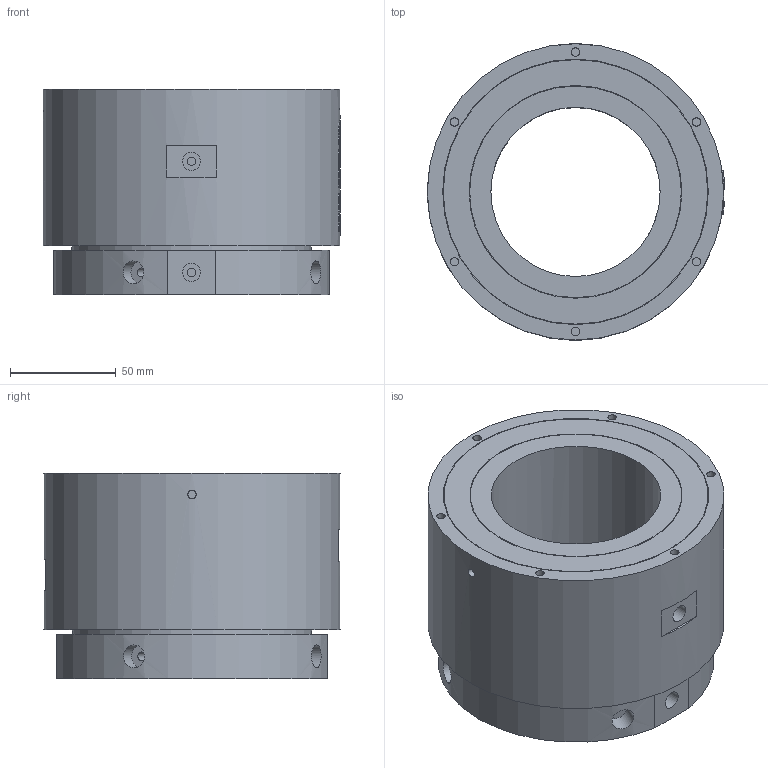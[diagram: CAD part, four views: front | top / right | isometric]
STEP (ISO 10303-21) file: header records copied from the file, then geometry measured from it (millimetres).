
FILE_DESCRIPTION(/* description */ (''),/* implementation_level */ '2;1');
FILE_NAME(/* name */ 'HQ0201D80.stp',/* time_stamp */ '2025-01-19T15:17:56+08:00',/* author */ (''),/* organization */ (''),/* preprocessor_version */ 'ST-DEVELOPER v16.7',/* originating_system */ 'SIEMENS PLM Software NX 12.0',/* authorisation */ '');
FILE_SCHEMA (('AUTOMOTIVE_DESIGN { 1 0 10303 214 3 1 1 1 }'));
Length unit declared in the file: millimetre
Products named in the file (1): HX05089CE4B9beg0
Bounding box: 140.49 x 140 x 97 mm (x, y, z)
Volume: 934691.6 mm3; surface area: 101938.1 mm2
Topology: 1 solids, 1 shells, 409 faces, 992 edges, 665 vertices
Faces by surface type: plane 230, extrusion 93, cylinder 57, bspline 29
Full cylindrical faces by diameter (mm): 4 x14, 4.2 x6, 7 x4, 8.5 x4, 10.875 x4, 80 x1, 100 x1, 100.5 x1, 113 x1, 125 x1, 125.5 x1, 140 x1
Entity records: 33481 total; most frequent: CARTESIAN_POINT 25103, ORIENTED_EDGE 1872, DIRECTION 1209, EDGE_CURVE 936, B_SPLINE_CURVE_WITH_KNOTS 695, VERTEX_POINT 661, EDGE_LOOP 551, AXIS2_PLACEMENT_3D 494
